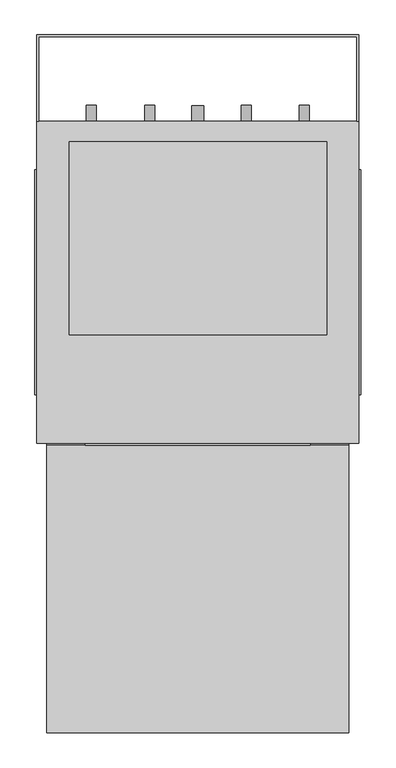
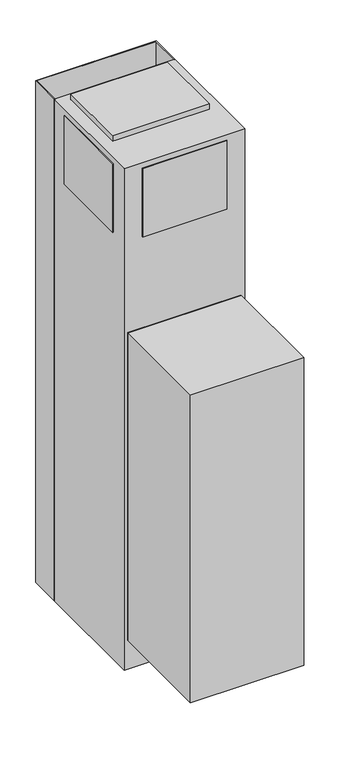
"""IFC4 building model written with IfcOpenShell, lengths in millimetres: proxy geometry, Exposed_Modular_Fan_Coil_Unit_-_MXY_-_IEC_-_4-Pipe_-_NoRisers_2022 : Size 06 - 277v/60Hz/1Ph - 4/1 Coil."""

import ifcopenshell
import ifcopenshell.guid

model = None  # the IFC model being written
_history = None  # IfcOwnerHistory: only IFC2X3 demands one
_inside = {}  # id of a spatial element -> (the spatial element, [elements in it])
_under = {}  # id of a project, library or spatial element -> (it, [spatial elements below it])
_declared = {}  # id of a project -> (the project, [libraries it declares])
_typed = {}  # id of a type object -> (the type object, [elements of that type])
_made_of = {}  # id of a material, layer set ... -> (it, [elements and type objects made of it])


def new_model(schema):
    """Start an empty IFC model of exactly this schema.

    Asked for "IFC4X3", IfcOpenShell would pick the latest addendum, in which some entities
    have other attributes; the version numbers below select the first issue.
    IFC2X3 requires an IfcOwnerHistory on every rooted entity: one is made here for all.
    """
    global model, _history
    if schema == "IFC4X3":
        model = ifcopenshell.file(schema_version=(4, 3, 0, 0))
    else:
        model = ifcopenshell.file(schema=schema)
    _inside.clear()
    _under.clear()
    _declared.clear()
    _typed.clear()
    _made_of.clear()
    _history = None
    if model.schema == "IFC2X3":
        org = make("IfcOrganization", Name="unknown")
        user = make(
            "IfcPersonAndOrganization",
            ThePerson=make("IfcPerson", FamilyName="unknown"),
            TheOrganization=org,
        )
        app = make(
            "IfcApplication",
            ApplicationDeveloper=org,
            Version="unknown",
            ApplicationFullName="unknown",
            ApplicationIdentifier="unknown",
        )
        _history = make(
            "IfcOwnerHistory",
            OwningUser=user,
            OwningApplication=app,
            ChangeAction="ADDED",
            CreationDate=0,
        )
    return model


def make(cls, **values):
    """One entity of the class cls with the attributes given. An attribute that is None is left unset."""
    return model.create_entity(
        cls, **{name: value for name, value in values.items() if value is not None}
    )


def rooted(cls, **values):
    """An entity with a GlobalId (a new one), such as an element, a storey or a relation."""
    return make(cls, GlobalId=ifcopenshell.guid.new(), OwnerHistory=_history, **values)


def si_unit(unit_type, name, prefix=None):
    """IfcSIUnit, for example si_unit("LENGTHUNIT", "METRE", prefix="MILLI")."""
    return make("IfcSIUnit", UnitType=unit_type, Prefix=prefix, Name=name)


def assignment(units):
    """IfcUnitAssignment: the units of a project."""
    return None if units is None else make("IfcUnitAssignment", Units=units)


def point(xyz):
    """IfcCartesianPoint."""
    return None if xyz is None else make("IfcCartesianPoint", Coordinates=xyz)


def direction(xyz):
    """IfcDirection."""
    return None if xyz is None else make("IfcDirection", DirectionRatios=xyz)


def frame(location, z_axis=None, x_axis=None):
    """IfcAxis2Placement3D, a coordinate frame: its origin and axes. An axis left out is left unset."""
    return make(
        "IfcAxis2Placement3D",
        Location=point(location),
        Axis=direction(z_axis),
        RefDirection=direction(x_axis),
    )


def frame_2d(location, x_axis=None):
    """IfcAxis2Placement2D, a coordinate frame in the plane: its origin and x axis."""
    return make(
        "IfcAxis2Placement2D", Location=point(location), RefDirection=direction(x_axis)
    )


def origin():
    """The frame at (0, 0, 0) with its axes left unset."""
    return frame((0.0, 0.0, 0.0))


def origin_with_axes():
    """The frame at (0, 0, 0) with the z axis (0, 0, 1) and the x axis (1, 0, 0) written out."""
    return frame((0.0, 0.0, 0.0), z_axis=(0.0, 0.0, 1.0), x_axis=(1.0, 0.0, 0.0))


def place(relative_to, where):
    """IfcLocalPlacement: puts the frame where relative to a parent placement (None: the world)."""
    return make(
        "IfcLocalPlacement", PlacementRelTo=relative_to, RelativePlacement=where
    )


def context(
    kind, dimensions, precision=None, world=None, true_north=None, identifier=None
):
    """IfcGeometricRepresentationContext, for example the 3D "Model" context."""
    return make(
        "IfcGeometricRepresentationContext",
        ContextIdentifier=identifier,
        ContextType=kind,
        CoordinateSpaceDimension=dimensions,
        Precision=precision,
        WorldCoordinateSystem=world,
        TrueNorth=true_north,
    )


def project(units=None, contexts=None):
    """IfcProject with its units and contexts."""
    return rooted(
        "IfcProject",
        Name="project",
        RepresentationContexts=contexts,
        UnitsInContext=assignment(units),
    )


def spatial(cls, under=None, at=None, **own):
    """A site, building, storey or space (cls), placed at a placement, below another one or the project."""
    s = rooted(cls, ObjectPlacement=at, **own)
    if under is not None:
        _under.setdefault(under.id(), (under, []))[1].append(s)
    return s


def polyline(points):
    """IfcPolyline through the points."""
    return make("IfcPolyline", Points=[point(p) for p in points])


def circle_curve(where, radius):
    """IfcCircle in the frame where."""
    return make("IfcCircle", Position=where, Radius=radius)


def trimmed(basis, trim1, trim2, sense, master):
    """IfcTrimmedCurve: the piece of a basis curve between two trims."""
    return make(
        "IfcTrimmedCurve",
        BasisCurve=basis,
        Trim1=trim1,
        Trim2=trim2,
        SenseAgreement=sense,
        MasterRepresentation=master,
    )


def segment(curve, same_sense, transition):
    """IfcCompositeCurveSegment."""
    return make(
        "IfcCompositeCurveSegment",
        Transition=transition,
        SameSense=same_sense,
        ParentCurve=curve,
    )


def composite_curve(segments, self_intersect=None):
    """IfcCompositeCurve: segments joined end to end."""
    return make("IfcCompositeCurve", Segments=segments, SelfIntersect=self_intersect)


def outline(outer, holes=None, kind="AREA"):
    """IfcArbitraryClosedProfileDef: a profile drawn as a closed curve; with holes, ...WithVoids."""
    if holes is None:
        return make("IfcArbitraryClosedProfileDef", ProfileType=kind, OuterCurve=outer)
    return make(
        "IfcArbitraryProfileDefWithVoids",
        ProfileType=kind,
        OuterCurve=outer,
        InnerCurves=holes,
    )


def extrude(swept, where, along, depth):
    """IfcExtrudedAreaSolid: the profile swept, set in the frame where, extruded along a direction by depth."""
    return make(
        "IfcExtrudedAreaSolid",
        SweptArea=swept,
        Position=where,
        ExtrudedDirection=direction(along),
        Depth=depth,
    )


def shape(context_of_items, identifier, shape_type, items):
    """IfcShapeRepresentation: the items that make up one representation, for example the "Body"."""
    return make(
        "IfcShapeRepresentation",
        ContextOfItems=context_of_items,
        RepresentationIdentifier=identifier,
        RepresentationType=shape_type,
        Items=items,
    )


def source(mapping_origin, context_of_items, identifier, shape_type, items):
    """IfcRepresentationMap: a shape defined once, which mapped items show again and again."""
    return make(
        "IfcRepresentationMap",
        MappingOrigin=mapping_origin,
        MappedRepresentation=shape(context_of_items, identifier, shape_type, items),
    )


def transform(
    local_origin,
    x_axis=None,
    y_axis=None,
    z_axis=None,
    scale=None,
    scale2=None,
    scale3=None,
    uniform=True,
):
    """IfcCartesianTransformationOperator3D, or its non-uniform kind. x_axis, y_axis, z_axis: its Axis1, 2, 3."""
    if uniform:
        return make(
            "IfcCartesianTransformationOperator3D",
            Axis1=direction(x_axis),
            Axis2=direction(y_axis),
            LocalOrigin=point(local_origin),
            Scale=scale,
            Axis3=direction(z_axis),
        )
    return make(
        "IfcCartesianTransformationOperator3DnonUniform",
        Axis1=direction(x_axis),
        Axis2=direction(y_axis),
        LocalOrigin=point(local_origin),
        Scale=scale,
        Axis3=direction(z_axis),
        Scale2=scale2,
        Scale3=scale3,
    )


def mapped(mapping_source, mapping_target):
    """IfcMappedItem: shows the shape of a source again, moved by a transform."""
    return make(
        "IfcMappedItem", MappingSource=mapping_source, MappingTarget=mapping_target
    )


def made_of(thing, what):
    """Note that an element or type object is made of a material, layer set ...; save() writes the relation."""
    if what is not None:
        _made_of.setdefault(what.id(), (what, []))[1].append(thing)
    return thing


def element(
    cls,
    number,
    at=None,
    inside=None,
    cuts=None,
    type_object=None,
    material=None,
    context=None,
    identifier="Body",
    shape_type=None,
    held_by="IfcProductDefinitionShape",
    body=None,
    shapes=None,
    **own,
):
    """One element of the class cls, such as IfcWall. Its Tag is "e" and its number.

    at: its placement. inside: the storey or other place that contains it. cuts: it is an
    opening in that element (IfcRelVoidsElement). A single representation is given by context,
    identifier, shape_type and body (its items); several are given by shapes. held_by: the class
    of the entity that holds the representations. save() writes the other relations.
    """
    e = rooted(cls, Tag="e%d" % number, ObjectPlacement=at, **own)
    if body is not None:
        shapes = [shape(context, identifier, shape_type, body)]
    if shapes is not None:
        e.Representation = make(held_by, Representations=shapes)
    if inside is not None:
        _inside.setdefault(inside.id(), (inside, []))[1].append(e)
    if cuts is not None:
        rooted(
            "IfcRelVoidsElement", RelatingBuildingElement=cuts, RelatedOpeningElement=e
        )
    if type_object is not None:
        _typed.setdefault(type_object.id(), (type_object, []))[1].append(e)
    return made_of(e, material)


def aggregate(whole, parts):
    """IfcRelAggregates: a whole, such as a stair, and the parts it consists of."""
    return rooted("IfcRelAggregates", RelatingObject=whole, RelatedObjects=parts)


def save(model, path):
    """Write the relations noted so far, then the file.

    IfcRelAggregates (storeys below a building ...), IfcRelContainedInSpatialStructure (elements
    in a storey), IfcRelDefinesByType, IfcRelAssociatesMaterial and IfcRelDeclares: one each for
    every whole, place, type object, material and project.
    """
    for whole, parts in _under.values():
        aggregate(whole, parts)
    for where, things in _inside.values():
        rooted(
            "IfcRelContainedInSpatialStructure",
            RelatedElements=things,
            RelatingStructure=where,
        )
    for kind, things in _typed.values():
        rooted("IfcRelDefinesByType", RelatedObjects=things, RelatingType=kind)
    for what, things in _made_of.values():
        rooted("IfcRelAssociatesMaterial", RelatedObjects=things, RelatingMaterial=what)
    for by, libraries in _declared.values():
        rooted("IfcRelDeclares", RelatingContext=by, RelatedDefinitions=libraries)
    model.write(path)


def mechanical_equipment_61f48a44(model_context):
    return source(origin(), model_context, "Body", "SweptSolid", [
        extrude(outline(polyline([(1356.1480703, 528.7118862), (1346.2, 560.8852728), (1488.3709244, 560.8852728), (1465.3489183, 528.7118862), (1356.1480703, 528.7118862)])), frame((0.0, -269.875, 0.0), z_axis=(0.0, 1.0, 0.0), x_axis=(0.0, 0.0, 1.0)), (0.0, 0.0, 1.0), 3.175),
        extrude(outline(polyline([(1435.1473557, 567.6436058), (1431.9449632, 593.725), (1461.1738042, 593.725), (1469.2382193, 567.6436058), (1435.1473557, 567.6436058)])), frame((0.0, -269.875, 0.0), z_axis=(0.0, 1.0, 0.0), x_axis=(0.0, 0.0, 1.0)), (0.0, 0.0, 1.0), 3.175),
        extrude(outline(polyline([(1383.2838288, 593.725), (1379.6183279, 567.6436058), (1346.2, 567.6436058), (1354.8342372, 593.725), (1383.2838288, 593.725)])), frame((0.0, -269.875, 0.0), z_axis=(0.0, 1.0, 0.0), x_axis=(0.0, 0.0, 1.0)), (0.0, 0.0, 1.0), 3.175),
        extrude(outline(polyline([(1422.5989903, 593.725), (1424.8808166, 567.6436058), (1388.9432681, 567.6436058), (1391.6845331, 593.725), (1422.5989903, 593.725)])), frame((0.0, -269.875, 0.0), z_axis=(0.0, 1.0, 0.0), x_axis=(0.0, 0.0, 1.0)), (0.0, 0.0, 1.0), 3.175),
        extrude(outline(polyline([(644.525, -266.7), (644.525, -720.725), (168.275, -720.725), (168.275, -266.7), (644.525, -266.7)])), frame((0.0, 0.0, 127.0), z_axis=(0.0, 0.0, 1.0), x_axis=(1.0, 0.0, 0.0)), (0.0, 0.0, 1.0), 1371.6),
        extrude(outline(polyline([(152.4, 381.0), (660.4, 381.0), (660.4, 244.475), (657.225, 244.475), (657.225, 377.825), (155.575, 377.825), (155.575, 244.475), (152.4, 244.475), (152.4, 381.0)])), origin_with_axes(), (0.0, 0.0, 1.0), 2235.2),
        extrude(outline(composite_curve([segment(trimmed(circle_curve(frame_2d((990.6, 482.6)), 7.9375), [point((990.6, 490.5375))], [point((990.6, 474.6625))], False, "CARTESIAN"), True, "CONTINUOUS"), segment(trimmed(circle_curve(frame_2d((990.6, 482.6)), 7.9375), [point((990.6, 474.6625))], [point((990.6, 490.5375))], False, "CARTESIAN"), True, "CONTINUOUS")], self_intersect=False)), frame((0.0, 244.475, 0.0), z_axis=(0.0, 1.0, 0.0), x_axis=(0.0, 0.0, 1.0)), (0.0, 0.0, 1.0), 25.4),
        extrude(outline(composite_curve([segment(trimmed(circle_curve(frame_2d((990.6, 330.2)), 7.9375), [point((990.6, 338.1375))], [point((990.6, 322.2625))], False, "CARTESIAN"), True, "CONTINUOUS"), segment(trimmed(circle_curve(frame_2d((990.6, 330.2)), 7.9375), [point((990.6, 322.2625))], [point((990.6, 338.1375))], False, "CARTESIAN"), True, "CONTINUOUS")], self_intersect=False)), frame((0.0, 244.475, 0.0), z_axis=(0.0, 1.0, 0.0), x_axis=(0.0, 0.0, 1.0)), (0.0, 0.0, 1.0), 25.4),
        extrude(outline(composite_curve([segment(trimmed(circle_curve(frame_2d((76.2, 406.4)), 9.525), [point((76.2, 415.925))], [point((76.2, 396.875))], False, "CARTESIAN"), True, "CONTINUOUS"), segment(trimmed(circle_curve(frame_2d((76.2, 406.4)), 9.525), [point((76.2, 396.875))], [point((76.2, 415.925))], False, "CARTESIAN"), True, "CONTINUOUS")], self_intersect=False)), frame((0.0, 244.475, 0.0), z_axis=(0.0, 1.0, 0.0), x_axis=(0.0, 0.0, 1.0)), (0.0, 0.0, 1.0), 25.4),
        extrude(outline(composite_curve([segment(trimmed(circle_curve(frame_2d((990.6, 574.675)), 7.9375), [point((990.6, 582.6125))], [point((990.6, 566.7375))], False, "CARTESIAN"), True, "CONTINUOUS"), segment(trimmed(circle_curve(frame_2d((990.6, 574.675)), 7.9375), [point((990.6, 566.7375))], [point((990.6, 582.6125))], False, "CARTESIAN"), True, "CONTINUOUS")], self_intersect=False)), frame((0.0, 244.475, 0.0), z_axis=(0.0, 1.0, 0.0), x_axis=(0.0, 0.0, 1.0)), (0.0, 0.0, 1.0), 25.4),
        extrude(outline(composite_curve([segment(trimmed(circle_curve(frame_2d((990.6, 238.125)), 7.9375), [point((990.6, 246.0625))], [point((990.6, 230.1875))], False, "CARTESIAN"), True, "CONTINUOUS"), segment(trimmed(circle_curve(frame_2d((990.6, 238.125)), 7.9375), [point((990.6, 230.1875))], [point((990.6, 246.0625))], False, "CARTESIAN"), True, "CONTINUOUS")], self_intersect=False)), frame((0.0, 244.475, 0.0), z_axis=(0.0, 1.0, 0.0), x_axis=(0.0, 0.0, 1.0)), (0.0, 0.0, 1.0), 25.4),
        extrude(outline(polyline([(644.525, -266.7), (168.275, -266.7), (168.275, -263.525), (644.525, -263.525), (644.525, -266.7)])), frame((0.0, 0.0, 127.0), z_axis=(0.0, 0.0, 1.0), x_axis=(1.0, 0.0, 0.0)), (0.0, 0.0, 1.0), 1371.6),
        extrude(outline(polyline([(663.575, 168.275), (663.575, -187.325), (660.4, -187.325), (660.4, 168.275), (663.575, 168.275)])), frame((0.0, 0.0, 1905.0), z_axis=(0.0, 0.0, 1.0), x_axis=(1.0, 0.0, 0.0)), (0.0, 0.0, 1.0), 304.8),
        extrude(outline(polyline([(149.225, -187.325), (149.225, 168.275), (152.4, 168.275), (152.4, -187.325), (149.225, -187.325)])), frame((0.0, 0.0, 1905.0), z_axis=(0.0, 0.0, 1.0), x_axis=(1.0, 0.0, 0.0)), (0.0, 0.0, 1.0), 304.8),
        extrude(outline(polyline([(584.2, -266.7), (228.6, -266.7), (228.6, -263.525), (584.2, -263.525), (584.2, -266.7)])), frame((0.0, 0.0, 1905.0), z_axis=(0.0, 0.0, 1.0), x_axis=(1.0, 0.0, 0.0)), (0.0, 0.0, 1.0), 304.8),
        extrude(outline(polyline([(609.6, 212.725), (609.6, -92.075), (203.2, -92.075), (203.2, 212.725), (609.6, 212.725)])), frame((0.0, 0.0, 2235.2), z_axis=(0.0, 0.0, 1.0), x_axis=(1.0, 0.0, 0.0)), (0.0, 0.0, 1.0), 25.4),
        extrude(outline(polyline([(660.4, 244.475), (660.4, -263.525), (152.4, -263.525), (152.4, 244.475), (660.4, 244.475)])), origin_with_axes(), (0.0, 0.0, 1.0), 2235.2),
    ])


if __name__ == "__main__":
    model = new_model("IFC4")
    model_context = context("Model", 3, world=origin())
    ifc_project = project(units=[si_unit("LENGTHUNIT", "METRE", prefix="MILLI")], contexts=[model_context])
    site = spatial("IfcSite", under=ifc_project)
    building = spatial("IfcBuilding", under=site)
    placement = place(None, origin())
    mechanical_equipment_shape = mechanical_equipment_61f48a44(model_context)
    element("IfcBuildingElementProxy", 1, Name="Exposed_Modular_Fan_Coil_Unit_-_MXY_-_IEC_-_4-Pipe_-_NoRisers_2022 : Size 06 - 277v/60Hz/1Ph - 4/1 Coil", ObjectType="Exposed_Modular_Fan_Coil_Unit_-_MXY_-_IEC_-_4-Pipe_-_NoRisers_2022 : Size 06 - 277v/60Hz/1Ph - 4/1 Coil", at=placement, inside=building, context=model_context, shape_type="MappedRepresentation", body=[
        mapped(mechanical_equipment_shape, transform((0.0, 0.0, 0.0), x_axis=(1.0, 0.0, 0.0), y_axis=(0.0, 1.0, 0.0), z_axis=(0.0, 0.0, 1.0))),
    ])
    save(model, "model.ifc")
